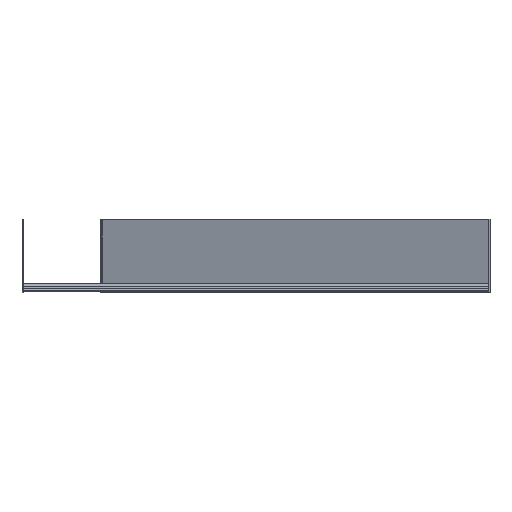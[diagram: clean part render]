
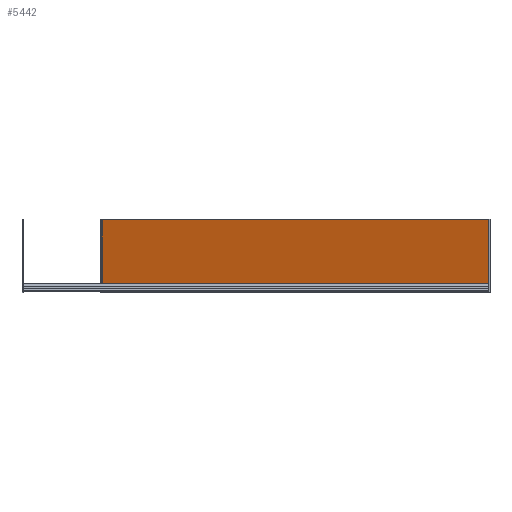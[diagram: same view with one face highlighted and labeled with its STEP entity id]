
A CAD part, top view. The second image highlights one B-rep face of the part: STEP entity #5442.
In plain terms, the highlighted planar face has unit normal (-0.35, 0, 0.937).
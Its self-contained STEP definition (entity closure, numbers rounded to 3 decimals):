
#325 = DIRECTION ( 'NONE',  ( 0., 1., 0. ) ) ;
#906 = DIRECTION ( 'NONE',  ( 0.937, 0., 0.35 ) ) ;
#1336 = ORIENTED_EDGE ( 'NONE', *, *, #4561, .F. ) ;
#1489 = CARTESIAN_POINT ( 'NONE',  ( 824.025, 0., -0.364 ) ) ;
#1791 = CARTESIAN_POINT ( 'NONE',  ( 825., 140., 0. ) ) ;
#2076 = EDGE_LOOP ( 'NONE', ( #1336, #6873, #9391, #4660 ) ) ;
#3411 = DIRECTION ( 'NONE',  ( -0.937, 0., -0.35 ) ) ;
#3561 = VECTOR ( 'NONE', #4836, 1000. ) ;
#3953 = LINE ( 'NONE', #10901, #4875 ) ;
#4174 = EDGE_CURVE ( 'NONE', #4282, #6168, #9146, .T. ) ;
#4210 = AXIS2_PLACEMENT_3D ( 'NONE', #1791, #7747, #906 ) ;
#4282 = VERTEX_POINT ( 'NONE', #11316 ) ;
#4561 = EDGE_CURVE ( 'NONE', #6168, #6405, #3953, .T. ) ;
#4660 = ORIENTED_EDGE ( 'NONE', *, *, #8632, .T. ) ;
#4836 = DIRECTION ( 'NONE',  ( -0.937, 0., -0.35 ) ) ;
#4875 = VECTOR ( 'NONE', #325, 1000. ) ;
#5311 = VECTOR ( 'NONE', #3411, 1000. ) ;
#5349 = VERTEX_POINT ( 'NONE', #11537 ) ;
#5442 = ADVANCED_FACE ( 'NONE', ( #6229 ), #9783, .T. ) ;
#5804 = EDGE_CURVE ( 'NONE', #4282, #5349, #11356, .T. ) ;
#6168 = VERTEX_POINT ( 'NONE', #10578 ) ;
#6229 = FACE_OUTER_BOUND ( 'NONE', #2076, .T. ) ;
#6405 = VERTEX_POINT ( 'NONE', #6664 ) ;
#6664 = CARTESIAN_POINT ( 'NONE',  ( 77.276, 140., -279.15 ) ) ;
#6873 = ORIENTED_EDGE ( 'NONE', *, *, #4174, .F. ) ;
#7747 = DIRECTION ( 'NONE',  ( -0.35, 0., 0.937 ) ) ;
#7846 = LINE ( 'NONE', #11413, #5311 ) ;
#8632 = EDGE_CURVE ( 'NONE', #5349, #6405, #7846, .T. ) ;
#9146 = LINE ( 'NONE', #9382, #3561 ) ;
#9382 = CARTESIAN_POINT ( 'NONE',  ( 825., 0., 0. ) ) ;
#9391 = ORIENTED_EDGE ( 'NONE', *, *, #5804, .T. ) ;
#9783 = PLANE ( 'NONE',  #4210 ) ;
#10418 = DIRECTION ( 'NONE',  ( 0., 1., 0. ) ) ;
#10578 = CARTESIAN_POINT ( 'NONE',  ( 77.276, 0., -279.15 ) ) ;
#10901 = CARTESIAN_POINT ( 'NONE',  ( 77.276, 0., -279.15 ) ) ;
#10932 = VECTOR ( 'NONE', #10418, 1000. ) ;
#11316 = CARTESIAN_POINT ( 'NONE',  ( 824.025, 0., -0.364 ) ) ;
#11356 = LINE ( 'NONE', #1489, #10932 ) ;
#11413 = CARTESIAN_POINT ( 'NONE',  ( 825., 140., 0. ) ) ;
#11537 = CARTESIAN_POINT ( 'NONE',  ( 824.025, 140., -0.364 ) ) ;
